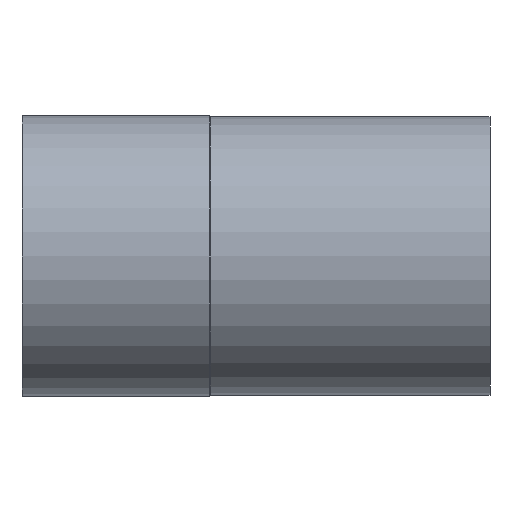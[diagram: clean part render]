
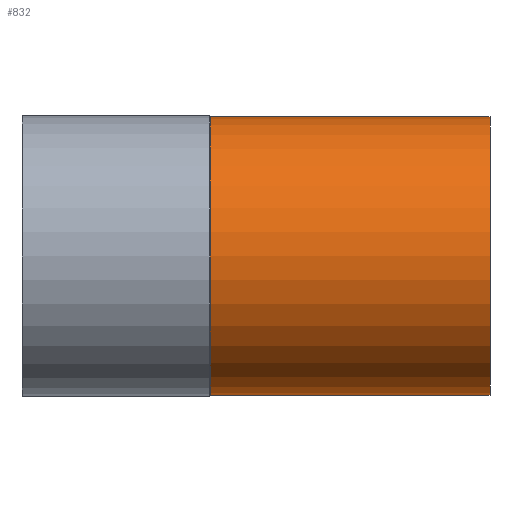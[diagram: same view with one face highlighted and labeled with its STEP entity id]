
A CAD part, left-side view. The second image highlights one B-rep face of the part: STEP entity #832.
In plain terms, the highlighted cylindrical face has radius 2.98 mm (diameter 5.96 mm), a partial arc.
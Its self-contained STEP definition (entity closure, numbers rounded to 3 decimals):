
#65 = VECTOR ( 'NONE', #66, 1000. ) ;
#66 = DIRECTION ( 'NONE',  ( 0., -1., 0. ) ) ;
#67 = CARTESIAN_POINT ( 'NONE',  ( 0., -20.255, -2.98 ) ) ;
#68 = LINE ( 'NONE', #67, #65 ) ;
#173 = CYLINDRICAL_SURFACE ( 'NONE', #188, 2.98 ) ;
#181 = DIRECTION ( 'NONE',  ( 0., -1., 0. ) ) ;
#182 = CARTESIAN_POINT ( 'NONE',  ( 0., 5.98, 0. ) ) ;
#183 = AXIS2_PLACEMENT_3D ( 'NONE', #182, #181, #192 ) ;
#185 = CIRCLE ( 'NONE', #183, 2.98 ) ;
#186 = CARTESIAN_POINT ( 'NONE',  ( 0., -20.255, 0. ) ) ;
#188 = AXIS2_PLACEMENT_3D ( 'NONE', #186, #193, #197 ) ;
#192 = DIRECTION ( 'NONE',  ( 0., 0., -1. ) ) ;
#193 = DIRECTION ( 'NONE',  ( 0., -1., 0. ) ) ;
#194 = FACE_OUTER_BOUND ( 'NONE', #842, .T. ) ;
#197 = DIRECTION ( 'NONE',  ( 0., 0., -1. ) ) ;
#212 = DIRECTION ( 'NONE',  ( 0., -1., 0. ) ) ;
#215 = CARTESIAN_POINT ( 'NONE',  ( 0., 0., 0. ) ) ;
#216 = AXIS2_PLACEMENT_3D ( 'NONE', #215, #212, #217 ) ;
#217 = DIRECTION ( 'NONE',  ( 0., 0., -1. ) ) ;
#219 = CIRCLE ( 'NONE', #216, 2.98 ) ;
#229 = DIRECTION ( 'NONE',  ( 0., -1., 0. ) ) ;
#230 = VECTOR ( 'NONE', #229, 1000. ) ;
#231 = CARTESIAN_POINT ( 'NONE',  ( 0., -20.255, 2.98 ) ) ;
#232 = LINE ( 'NONE', #231, #230 ) ;
#241 = CARTESIAN_POINT ( 'NONE',  ( 0., 5.98, -2.98 ) ) ;
#571 = CARTESIAN_POINT ( 'NONE',  ( 0., 0., 2.98 ) ) ;
#579 = CARTESIAN_POINT ( 'NONE',  ( 0., 5.98, 2.98 ) ) ;
#586 = CARTESIAN_POINT ( 'NONE',  ( 0., 0., -2.98 ) ) ;
#725 = VERTEX_POINT ( 'NONE', #571 ) ;
#731 = VERTEX_POINT ( 'NONE', #586 ) ;
#734 = VERTEX_POINT ( 'NONE', #579 ) ;
#762 = EDGE_CURVE ( 'NONE', #869, #731, #68, .T. ) ;
#831 = ORIENTED_EDGE ( 'NONE', *, *, #868, .F. ) ;
#832 = ADVANCED_FACE ( 'NONE', ( #194 ), #173, .T. ) ;
#833 = ORIENTED_EDGE ( 'NONE', *, *, #849, .F. ) ;
#838 = ORIENTED_EDGE ( 'NONE', *, *, #762, .T. ) ;
#839 = ORIENTED_EDGE ( 'NONE', *, *, #841, .T. ) ;
#841 = EDGE_CURVE ( 'NONE', #734, #869, #185, .T. ) ;
#842 = EDGE_LOOP ( 'NONE', ( #831, #839, #838, #833 ) ) ;
#849 = EDGE_CURVE ( 'NONE', #725, #731, #219, .T. ) ;
#868 = EDGE_CURVE ( 'NONE', #734, #725, #232, .T. ) ;
#869 = VERTEX_POINT ( 'NONE', #241 ) ;
